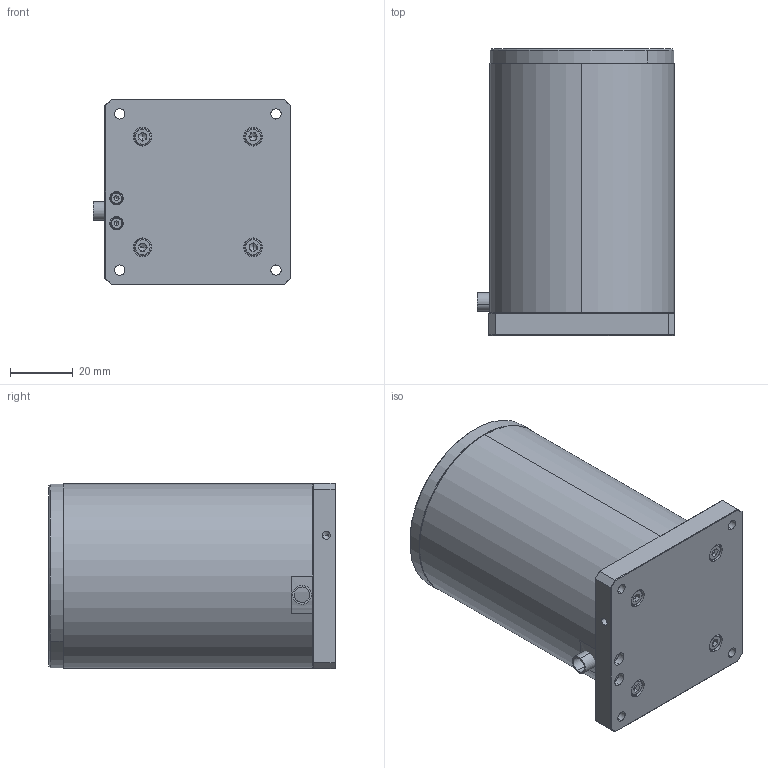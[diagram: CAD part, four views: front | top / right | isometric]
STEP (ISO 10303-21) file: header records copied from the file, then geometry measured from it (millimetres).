
FILE_DESCRIPTION (( 'STEP AP203' ), '1' );
FILE_NAME ('P34-T4S-B2.STEP', '2021-11-02T01:49:54', ( '' ), ( '' ), 'SwSTEP 2.0', 'SolidWorks 2016', '' );
FILE_SCHEMA (( 'CONFIG_CONTROL_DESIGN' ));
Length unit declared in the file: millimetre
Products named in the file (1): P34-T4S-B2
Bounding box: 63.25 x 92 x 59.5 mm (x, y, z)
Volume: 256307 mm3; surface area: 39017.9 mm2
Topology: 15 solids, 15 shells, 418 faces, 948 edges, 569 vertices
Faces by surface type: plane 206, cylinder 133, cone 59, torus 20
Entity records: 11626 total; most frequent: DIRECTION 2157, CARTESIAN_POINT 1968, ORIENTED_EDGE 1828, EDGE_CURVE 914, AXIS2_PLACEMENT_3D 828, VERTEX_POINT 569, VECTOR 501, EDGE_LOOP 501
